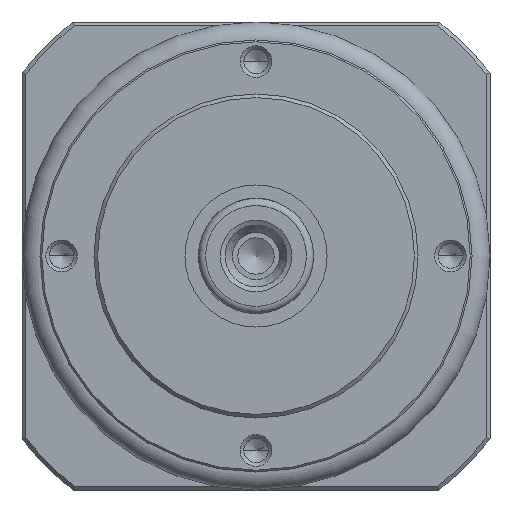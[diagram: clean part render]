
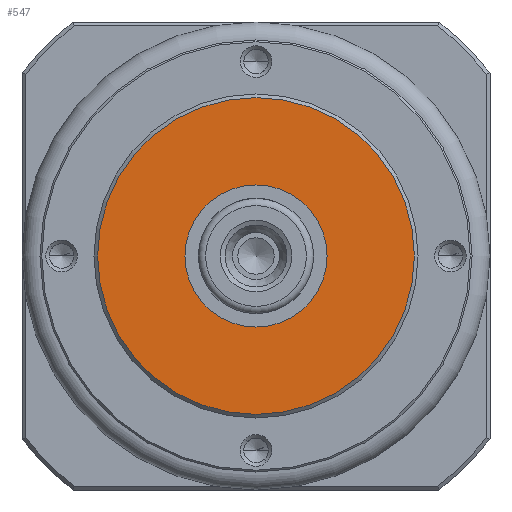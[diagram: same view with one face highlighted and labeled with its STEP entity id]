
A CAD part, left-side view. The second image highlights one B-rep face of the part: STEP entity #547.
In plain terms, the highlighted planar face has unit normal (-1, 0, 0).
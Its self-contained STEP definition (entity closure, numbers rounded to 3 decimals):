
#241=PLANE('',#3053);
#344=FACE_BOUND('',#934,.T.);
#345=FACE_BOUND('',#935,.T.);
#547=ADVANCED_FACE('',(#344,#345),#241,.T.);
#934=EDGE_LOOP('',(#1570));
#935=EDGE_LOOP('',(#1571,#1572));
#1570=ORIENTED_EDGE('',*,*,#2504,.T.);
#1571=ORIENTED_EDGE('',*,*,#2528,.T.);
#1572=ORIENTED_EDGE('',*,*,#2534,.T.);
#2224=VERTEX_POINT('',#4747);
#2241=VERTEX_POINT('',#4858);
#2242=VERTEX_POINT('',#4860);
#2504=EDGE_CURVE('',#2224,#2224,#2841,.T.);
#2528=EDGE_CURVE('',#2242,#2241,#2850,.T.);
#2534=EDGE_CURVE('',#2241,#2242,#2852,.T.);
#2841=CIRCLE('',#3028,44.);
#2850=CIRCLE('',#3048,19.738);
#2852=CIRCLE('',#3052,19.738);
#3028=AXIS2_PLACEMENT_3D('',#4746,#3435,#3436);
#3048=AXIS2_PLACEMENT_3D('',#4859,#3486,#3487);
#3052=AXIS2_PLACEMENT_3D('',#4880,#3497,#3498);
#3053=AXIS2_PLACEMENT_3D('',#4881,#3499,#3500);
#3435=DIRECTION('',(-1.,0.,0.));
#3436=DIRECTION('',(0.,0.,1.));
#3486=DIRECTION('',(1.,0.,0.));
#3487=DIRECTION('',(0.,0.,1.));
#3497=DIRECTION('',(1.,0.,0.));
#3498=DIRECTION('',(0.,0.,1.));
#3499=DIRECTION('',(-1.,0.,0.));
#3500=DIRECTION('',(0.,0.,1.));
#4746=CARTESIAN_POINT('',(53.004,0.,0.));
#4747=CARTESIAN_POINT('',(53.004,0.,44.));
#4858=CARTESIAN_POINT('',(53.004,0.,19.738));
#4859=CARTESIAN_POINT('',(53.004,0.,0.));
#4860=CARTESIAN_POINT('',(53.004,0.,-19.738));
#4880=CARTESIAN_POINT('',(53.004,0.,0.));
#4881=CARTESIAN_POINT('',(53.004,0.,0.));
